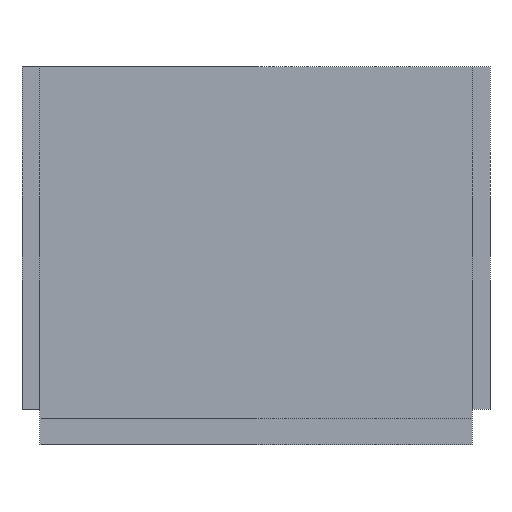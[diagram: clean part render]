
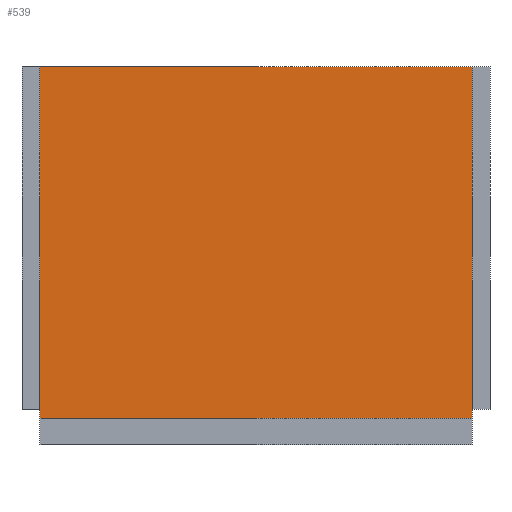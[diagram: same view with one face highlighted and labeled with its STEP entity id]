
A CAD part, front view. The second image highlights one B-rep face of the part: STEP entity #539.
In plain terms, the highlighted free-form (B-spline) face has degree [1, 1] with [2, 2] control points.
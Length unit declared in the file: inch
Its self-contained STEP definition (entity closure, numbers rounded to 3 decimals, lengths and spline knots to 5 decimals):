
#468 = CARTESIAN_POINT ('', (-1., -0.75, 9.75));
#469 = VERTEX_POINT ('', #468);
#470 = CARTESIAN_POINT ('', (-3., -0.75, 9.75));
#471 = VERTEX_POINT ('', #470);
#472 = CARTESIAN_POINT ('', (-1., -0.75, 9.75));
#473 = CARTESIAN_POINT ('', (-3., -0.75, 9.75));
#474 = B_SPLINE_CURVE_WITH_KNOTS ('', 1, (#472, #473), .UNSPECIFIED., .F., .U., (2, 2), (0., 1.), .UNSPECIFIED.);
#475 = EDGE_CURVE ('', #469, #471, #474, .T.);
#477 = CARTESIAN_POINT ('', (9., -0.75, 9.75));
#478 = VERTEX_POINT ('', #477);
#479 = CARTESIAN_POINT ('', (-1., -0.75, 9.75));
#480 = CARTESIAN_POINT ('', (9., -0.75, 9.75));
#481 = B_SPLINE_CURVE_WITH_KNOTS ('', 1, (#479, #480), .UNSPECIFIED., .F., .U., (2, 2), (0., 1.), .UNSPECIFIED.);
#482 = EDGE_CURVE ('', #469, #478, #481, .T.);
#504 = CARTESIAN_POINT ('', (-3., -0.75, 0.));
#505 = VERTEX_POINT ('', #504);
#506 = CARTESIAN_POINT ('', (-3., -0.75, 0.));
#507 = CARTESIAN_POINT ('', (-3., -0.75, 9.75));
#508 = B_SPLINE_CURVE_WITH_KNOTS ('', 1, (#506, #507), .UNSPECIFIED., .F., .U., (2, 2), (0., 1.), .UNSPECIFIED.);
#509 = EDGE_CURVE ('', #505, #471, #508, .T.);
#510 = ORIENTED_EDGE ('', *, *, #509, .F.);
#511 = CARTESIAN_POINT ('', (-1., -0.75, 0.));
#512 = VERTEX_POINT ('', #511);
#513 = CARTESIAN_POINT ('', (-1., -0.75, 0.));
#514 = CARTESIAN_POINT ('', (-3., -0.75, 0.));
#515 = B_SPLINE_CURVE_WITH_KNOTS ('', 1, (#513, #514), .UNSPECIFIED., .F., .U., (2, 2), (0., 1.), .UNSPECIFIED.);
#516 = EDGE_CURVE ('', #512, #505, #515, .T.);
#517 = ORIENTED_EDGE ('', *, *, #516, .F.);
#518 = CARTESIAN_POINT ('', (9., -0.75, 0.));
#519 = VERTEX_POINT ('', #518);
#520 = CARTESIAN_POINT ('', (-1., -0.75, 0.));
#521 = CARTESIAN_POINT ('', (9., -0.75, 0.));
#522 = B_SPLINE_CURVE_WITH_KNOTS ('', 1, (#520, #521), .UNSPECIFIED., .F., .U., (2, 2), (0., 1.), .UNSPECIFIED.);
#523 = EDGE_CURVE ('', #512, #519, #522, .T.);
#524 = ORIENTED_EDGE ('', *, *, #523, .T.);
#525 = CARTESIAN_POINT ('', (9., -0.75, 0.));
#526 = CARTESIAN_POINT ('', (9., -0.75, 9.75));
#527 = B_SPLINE_CURVE_WITH_KNOTS ('', 1, (#525, #526), .UNSPECIFIED., .F., .U., (2, 2), (0., 1.), .UNSPECIFIED.);
#528 = EDGE_CURVE ('', #519, #478, #527, .T.);
#529 = ORIENTED_EDGE ('', *, *, #528, .T.);
#530 = ORIENTED_EDGE ('', *, *, #482, .F.);
#531 = ORIENTED_EDGE ('', *, *, #475, .T.);
#532 = EDGE_LOOP ('', (#510, #517, #524, #529, #530, #531));
#533 = FACE_OUTER_BOUND ('', #532, .T.);
#534 = CARTESIAN_POINT ('', (-3., -0.75, 0.));
#535 = CARTESIAN_POINT ('', (-3., -0.75, 9.75));
#536 = CARTESIAN_POINT ('', (9., -0.75, 0.));
#537 = CARTESIAN_POINT ('', (9., -0.75, 9.75));
#538 = B_SPLINE_SURFACE_WITH_KNOTS ('', 1, 1, ((#534, #535), (#536, #537)), .UNSPECIFIED., .F., .F., .U., (2, 2), (2, 2), (-5., 1.), (0., 1.), .UNSPECIFIED.);
#539 = ADVANCED_FACE ('', (#533), #538, .T.);
